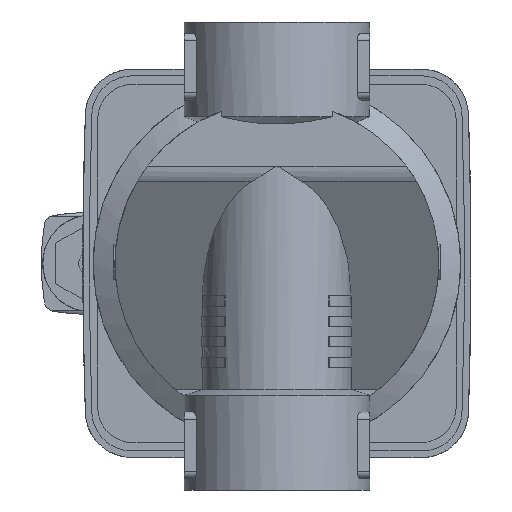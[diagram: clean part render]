
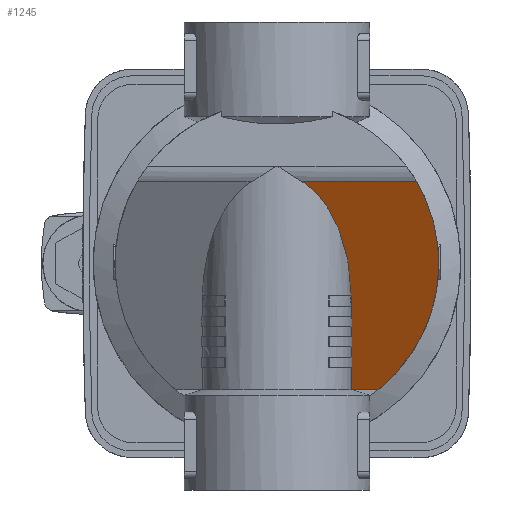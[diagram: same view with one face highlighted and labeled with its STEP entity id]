
A CAD part, front view. The second image highlights one B-rep face of the part: STEP entity #1245.
In plain terms, the highlighted planar face has unit normal (0, -0.856, -0.517) as drawn and (0.517, -0.856, 0) by its records, which use the part's own axes.
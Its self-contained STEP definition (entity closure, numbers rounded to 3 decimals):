
#1245 = ADVANCED_FACE( '', ( #2515 ), #2516, .T. );
#2515 = FACE_OUTER_BOUND( '', #3794, .T. );
#2516 = PLANE( '', #3795 );
#3794 = EDGE_LOOP( '', ( #7316, #7317, #7318, #7319, #7320, #7321 ) );
#3795 = AXIS2_PLACEMENT_3D( '', #7322, #7323, #7324 );
#7316 = ORIENTED_EDGE( '', *, *, #8536, .F. );
#7317 = ORIENTED_EDGE( '', *, *, #8228, .T. );
#7318 = ORIENTED_EDGE( '', *, *, #8566, .T. );
#7319 = ORIENTED_EDGE( '', *, *, #8632, .F. );
#7320 = ORIENTED_EDGE( '', *, *, #8123, .T. );
#7321 = ORIENTED_EDGE( '', *, *, #8984, .T. );
#7322 = CARTESIAN_POINT( '', ( 43., 20.5, 99. ) );
#7323 = DIRECTION( '', ( 0.517, -0.856, 0. ) );
#7324 = DIRECTION( '', ( 0.856, 0.517, 0. ) );
#8123 = EDGE_CURVE( '', #9956, #9953, #9957, .T. );
#8228 = EDGE_CURVE( '', #10116, #10117, #10118, .T. );
#8536 = EDGE_CURVE( '', #10116, #10578, #10579, .T. );
#8566 = EDGE_CURVE( '', #10117, #10616, #10618, .T. );
#8632 = EDGE_CURVE( '', #9956, #10616, #10711, .F. );
#8984 = EDGE_CURVE( '', #9953, #10578, #11147, .F. );
#9953 = VERTEX_POINT( '', #12719 );
#9956 = VERTEX_POINT( '', #12735 );
#9957 = LINE( '', #12736, #12737 );
#10116 = VERTEX_POINT( '', #12982 );
#10117 = VERTEX_POINT( '', #12983 );
#10118 = LINE( '', #12984, #12985 );
#10578 = VERTEX_POINT( '', #13749 );
#10579 = LINE( '', #13750, #13751 );
#10616 = VERTEX_POINT( '', #13808 );
#10618 = B_SPLINE_CURVE_WITH_KNOTS( '', 3, ( #13810, #13811, #13812, #13813 ), .UNSPECIFIED., .F., .F., ( 4, 4 ), ( 0.007, 0.007 ), .UNSPECIFIED. );
#10711 = ELLIPSE( '', #13963, 50.947, 43.6 );
#11147 = ELLIPSE( '', #14656, 38.661, 20. );
#12719 = CARTESIAN_POINT( '', ( -22.092, -18.846, 6.694 ) );
#12735 = CARTESIAN_POINT( '', ( -22.092, -18.846, 37.589 ) );
#12736 = CARTESIAN_POINT( '', ( -22.092, -18.846, 99. ) );
#12737 = VECTOR( '', #15402, 1000. );
#12982 = CARTESIAN_POINT( '', ( 34.057, 15.094, 20. ) );
#12983 = CARTESIAN_POINT( '', ( 34.057, 15.094, 27.224 ) );
#12984 = CARTESIAN_POINT( '', ( 34.057, 15.094, 99. ) );
#12985 = VECTOR( '', #15503, 1000. );
#13749 = CARTESIAN_POINT( '', ( 9.086, 0., 20. ) );
#13750 = CARTESIAN_POINT( '', ( 43., 20.5, 20. ) );
#13751 = VECTOR( '', #15837, 1000. );
#13808 = CARTESIAN_POINT( '', ( 34.056, 15.094, 27.224 ) );
#13810 = CARTESIAN_POINT( '', ( 34.057, 15.094, 27.224 ) );
#13811 = CARTESIAN_POINT( '', ( 34.057, 15.094, 27.224 ) );
#13812 = CARTESIAN_POINT( '', ( 34.056, 15.094, 27.224 ) );
#13813 = CARTESIAN_POINT( '', ( 34.056, 15.094, 27.224 ) );
#13963 = AXIS2_PLACEMENT_3D( '', #15936, #15937, #15938 );
#14656 = AXIS2_PLACEMENT_3D( '', #16287, #16288, #16289 );
#15402 = DIRECTION( '', ( 0., 0., -1. ) );
#15503 = DIRECTION( '', ( 0., 0., 1. ) );
#15837 = DIRECTION( '', ( -0.856, -0.517, 0. ) );
#15936 = CARTESIAN_POINT( '', ( 0., -5.493, 0. ) );
#15937 = DIRECTION( '', ( 0.517, -0.856, 0. ) );
#15938 = DIRECTION( '', ( 0.856, 0.517, 0. ) );
#16287 = CARTESIAN_POINT( '', ( 9.086, 0., 0. ) );
#16288 = DIRECTION( '', ( 0.517, -0.856, 0. ) );
#16289 = DIRECTION( '', ( -0.856, -0.517, 0. ) );
